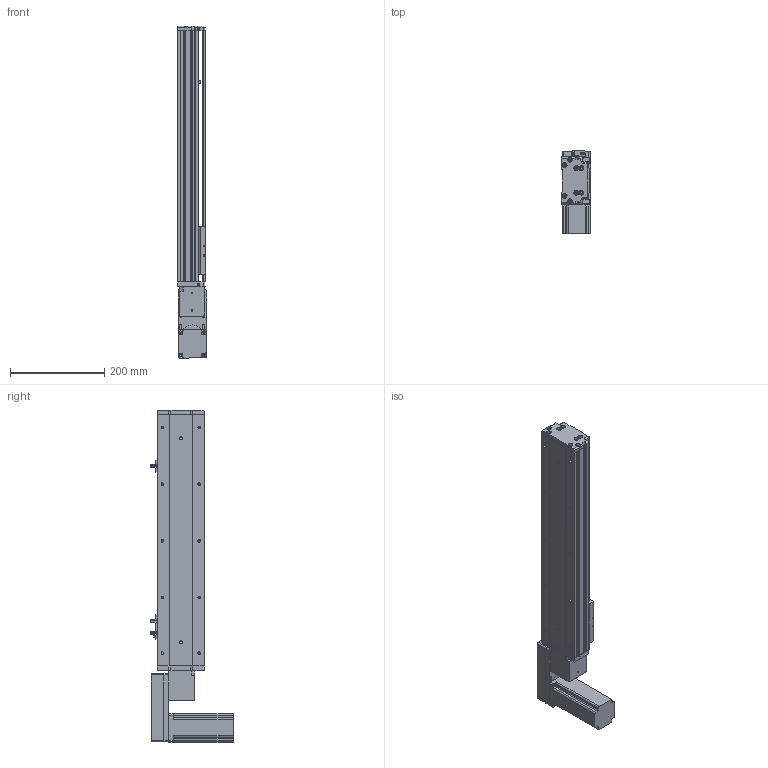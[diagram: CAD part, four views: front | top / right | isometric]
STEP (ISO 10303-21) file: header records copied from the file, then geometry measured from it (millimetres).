
FILE_DESCRIPTION (( 'STEP AP214' ), '1' );
FILE_NAME ('KSD100B-S350-MLB-CM.STEP', '2019-11-08T06:51:06', ( '微软用户' ), ( '微软中国' ), 'SwSTEP 2.0', 'SolidWorks 2014', '' );
FILE_SCHEMA (( 'AUTOMOTIVE_DESIGN' ));
Length unit declared in the file: millimetre
Products named in the file (12): 悵誘欶奻狟殏; 100宽马达安装板连板上下折丝杆同步带; 台达ECMA－C20604AS伺服电机; U倰嫖萇EEㄜSX672; 覜茼え100遵圉猾敕; 100宽防尘板350行程-同步带; 100宽马达安装板同步带左; 100宽同步带安装板半封闭; 100宽马达安装板同步带; 100遵傷啣肮祭湍; 100宽底板半封闭同步带350行程; KSD100B-S350-MLB-CM
Assembly tree (13 placements, depth 2):
  KSD100B-S350-MLB-CM
    100宽底板半封闭同步带350行程
    100遵傷啣肮祭湍
    100宽马达安装板同步带
    100宽同步带安装板半封闭
    100宽马达安装板同步带左
    100宽防尘板350行程-同步带
    覜茼え100遵圉猾敕
    U倰嫖萇EEㄜSX672  x3
    台达ECMA－C20604AS伺服电机
    100宽马达安装板连板上下折丝杆同步带
    悵誘欶奻狟殏
Bounding box: 61 x 174.7 x 703 mm (x, y, z)
Volume: 1753571.7 mm3; surface area: 544857 mm2
Topology: 14 solids, 14 shells, 1291 faces, 3602 edges, 2317 vertices
Faces by surface type: cylinder 625, plane 571, cone 95
Entity records: 44319 total; most frequent: CARTESIAN_POINT 7976, DIRECTION 6198, ORIENTED_EDGE 5920, EDGE_CURVE 2960, AXIS2_PLACEMENT_3D 2245, VERTEX_POINT 1941, LINE 1708, VECTOR 1708
